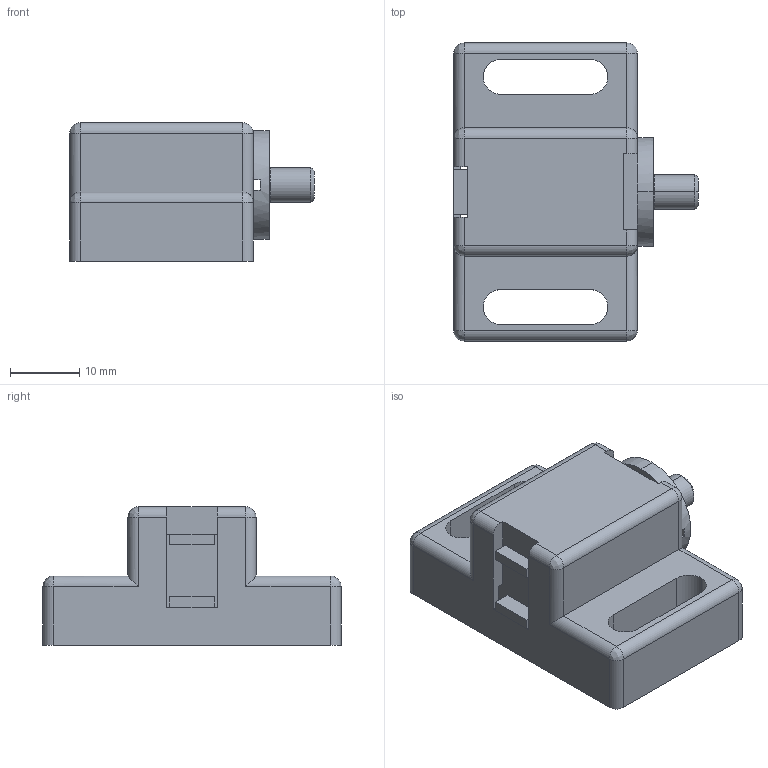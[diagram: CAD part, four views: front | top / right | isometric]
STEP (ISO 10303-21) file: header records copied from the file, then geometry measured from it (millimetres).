
FILE_DESCRIPTION (( 'STEP AP203' ), '1' );
FILE_NAME ('3149.STEP', '2016-01-29T12:34:04', ( '' ), ( '' ), 'SwSTEP 2.0', 'SolidWorks 2014', '' );
FILE_SCHEMA (( 'CONFIG_CONTROL_DESIGN' ));
Length unit declared in the file: millimetre
Products named in the file (4): 2^3149; 3^3149; 3149; 1^3149
Assembly tree (3 placements, depth 2):
  3149
    1^3149
    2^3149
    3^3149
Bounding box: 35.3 x 43 x 20 mm (x, y, z)
Volume: 12426.3 mm3; surface area: 7931.5 mm2
Topology: 3 solids, 3 shells, 104 faces, 274 edges, 166 vertices
Faces by surface type: plane 62, cylinder 30, bspline 10, cone 2
Entity records: 3638 total; most frequent: CARTESIAN_POINT 710, ORIENTED_EDGE 532, DIRECTION 520, EDGE_CURVE 266, LINE 200, VECTOR 200, VERTEX_POINT 166, AXIS2_PLACEMENT_3D 160
